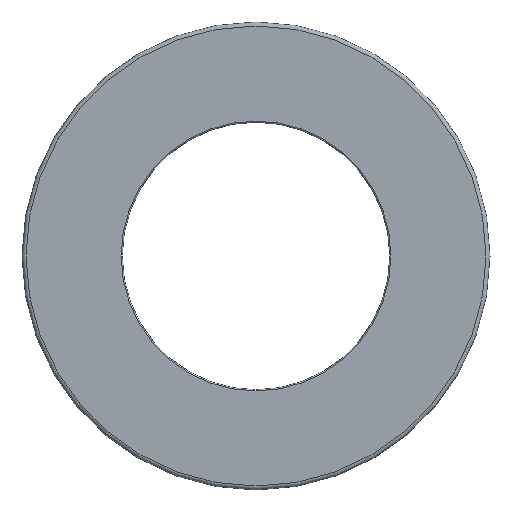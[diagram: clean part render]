
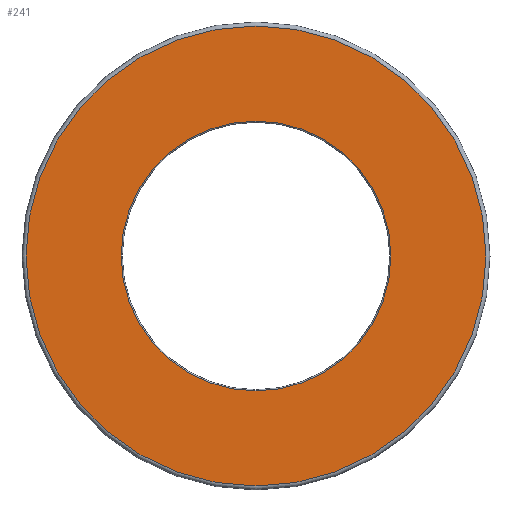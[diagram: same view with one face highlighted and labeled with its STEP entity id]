
A CAD part, left-side view. The second image highlights one B-rep face of the part: STEP entity #241.
In plain terms, the highlighted planar face has unit normal (-1, 0, 0).
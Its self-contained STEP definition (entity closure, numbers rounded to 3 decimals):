
#20=FACE_BOUND('',#67,.T.);
#24=PLANE('',#292);
#49=FACE_OUTER_BOUND('',#66,.T.);
#66=EDGE_LOOP('',(#186));
#67=EDGE_LOOP('',(#187));
#89=CIRCLE('',#288,17.2);
#92=CIRCLE('',#293,10.088);
#114=VERTEX_POINT('',#434);
#117=VERTEX_POINT('',#444);
#139=EDGE_CURVE('',#114,#114,#89,.T.);
#143=EDGE_CURVE('',#117,#117,#92,.T.);
#186=ORIENTED_EDGE('',*,*,#139,.F.);
#187=ORIENTED_EDGE('',*,*,#143,.T.);
#241=ADVANCED_FACE('',(#49,#20),#24,.T.);
#288=AXIS2_PLACEMENT_3D('',#436,#347,#348);
#292=AXIS2_PLACEMENT_3D('',#443,#356,#357);
#293=AXIS2_PLACEMENT_3D('',#445,#358,#359);
#347=DIRECTION('center_axis',(1.,0.,0.));
#348=DIRECTION('ref_axis',(0.,-1.,0.));
#356=DIRECTION('center_axis',(-1.,0.,0.));
#357=DIRECTION('ref_axis',(0.,0.,1.));
#358=DIRECTION('center_axis',(1.,0.,0.));
#359=DIRECTION('ref_axis',(0.,1.,0.));
#434=CARTESIAN_POINT('',(0.,0.,17.2));
#436=CARTESIAN_POINT('Origin',(0.,0.,
0.));
#443=CARTESIAN_POINT('Origin',(0.,13.794,0.));
#444=CARTESIAN_POINT('',(0.,0.,10.088));
#445=CARTESIAN_POINT('Origin',(0.,0.,
0.));
